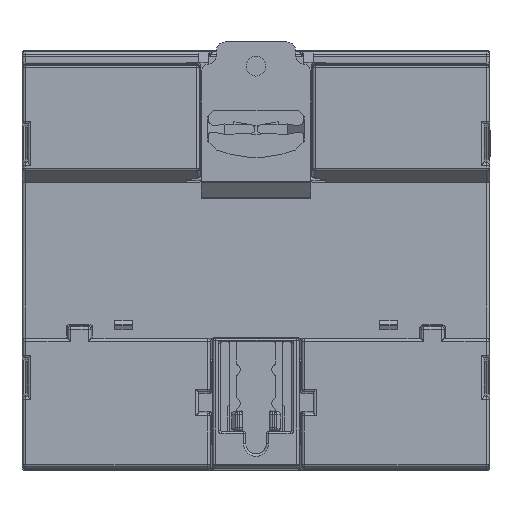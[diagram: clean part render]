
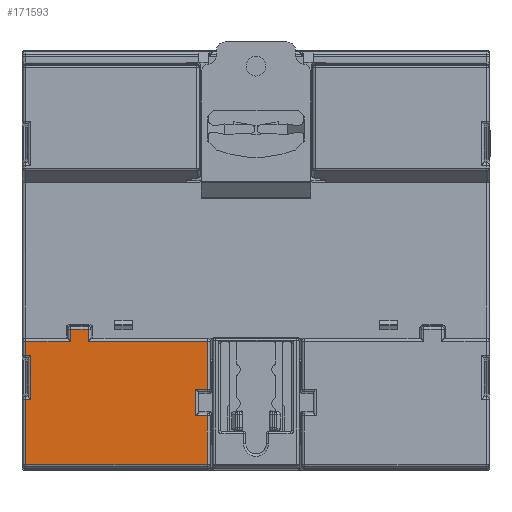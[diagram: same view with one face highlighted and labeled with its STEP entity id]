
A CAD part, front view. The second image highlights one B-rep face of the part: STEP entity #171593.
In plain terms, the highlighted planar face has unit normal (0, -1, 0).
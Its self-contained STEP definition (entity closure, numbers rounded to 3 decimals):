
#5770 = LINE ( 'NONE', #36385, #108022 ) ;
#5859 = ORIENTED_EDGE ( 'NONE', *, *, #13735, .T. ) ;
#7556 = CARTESIAN_POINT ( 'NONE',  ( -69.754, -0.824, -21.502 ) ) ;
#10596 = CARTESIAN_POINT ( 'NONE',  ( -68.591, -0.824, -21.502 ) ) ;
#11526 = VERTEX_POINT ( 'NONE', #25212 ) ;
#13622 = ORIENTED_EDGE ( 'NONE', *, *, #94692, .T. ) ;
#13735 = EDGE_CURVE ( 'NONE', #127649, #94241, #149252, .T. ) ;
#18384 = CARTESIAN_POINT ( 'NONE',  ( -70.553, -0.824, -31.498 ) ) ;
#20463 = LINE ( 'NONE', #55338, #51771 ) ;
#22879 = LINE ( 'NONE', #73125, #85503 ) ;
#23715 = ORIENTED_EDGE ( 'NONE', *, *, #114754, .T. ) ;
#25212 = CARTESIAN_POINT ( 'NONE',  ( -31.153, -0.824, -29.213 ) ) ;
#29624 = AXIS2_PLACEMENT_3D ( 'NONE', #119900, #40122, #133372 ) ;
#29716 = VERTEX_POINT ( 'NONE', #132977 ) ;
#30785 = ORIENTED_EDGE ( 'NONE', *, *, #74808, .T. ) ;
#36371 = ORIENTED_EDGE ( 'NONE', *, *, #112500, .T. ) ;
#36385 = CARTESIAN_POINT ( 'NONE',  ( -70.553, -0.824, -21.502 ) ) ;
#38308 = VERTEX_POINT ( 'NONE', #57653 ) ;
#40122 = DIRECTION ( 'NONE',  ( 0., -1., 0. ) ) ;
#40477 = DIRECTION ( 'NONE',  ( 1., 0., 0. ) ) ;
#44574 = VECTOR ( 'NONE', #167088, 1000. ) ;
#45937 = VERTEX_POINT ( 'NONE', #105230 ) ;
#48440 = VERTEX_POINT ( 'NONE', #50788 ) ;
#49252 = CARTESIAN_POINT ( 'NONE',  ( -31.153, -0.824, -29.763 ) ) ;
#49418 = LINE ( 'NONE', #142881, #80716 ) ;
#49846 = DIRECTION ( 'NONE',  ( 1., 0., 0. ) ) ;
#50788 = CARTESIAN_POINT ( 'NONE',  ( -28.54, -0.824, -18.277 ) ) ;
#50837 = CARTESIAN_POINT ( 'NONE',  ( -28.54, -0.824, -46.251 ) ) ;
#50904 = EDGE_CURVE ( 'NONE', #94241, #29716, #112556, .T. ) ;
#51276 = CARTESIAN_POINT ( 'NONE',  ( -55.54, -0.824, -18.277 ) ) ;
#51771 = VECTOR ( 'NONE', #82160, 1000. ) ;
#52306 = ORIENTED_EDGE ( 'NONE', *, *, #107076, .T. ) ;
#52961 = PLANE ( 'NONE',  #29624 ) ;
#54797 = LINE ( 'NONE', #57142, #86091 ) ;
#54866 = DIRECTION ( 'NONE',  ( 0., 0., 1. ) ) ;
#55338 = CARTESIAN_POINT ( 'NONE',  ( -70.553, -0.824, -29.213 ) ) ;
#56569 = VECTOR ( 'NONE', #142376, 1000. ) ;
#57142 = CARTESIAN_POINT ( 'NONE',  ( -69.754, -0.824, -17.6 ) ) ;
#57398 = LINE ( 'NONE', #121246, #128278 ) ;
#57653 = CARTESIAN_POINT ( 'NONE',  ( -69.754, -0.824, -31.498 ) ) ;
#57664 = CARTESIAN_POINT ( 'NONE',  ( -55.54, -0.824, -15.587 ) ) ;
#58761 = VERTEX_POINT ( 'NONE', #115189 ) ;
#59687 = ORIENTED_EDGE ( 'NONE', *, *, #87891, .T. ) ;
#59946 = EDGE_CURVE ( 'NONE', #121198, #73034, #96320, .T. ) ;
#60015 = CARTESIAN_POINT ( 'NONE',  ( -31.153, -0.824, -35.187 ) ) ;
#64448 = VERTEX_POINT ( 'NONE', #51276 ) ;
#70214 = CARTESIAN_POINT ( 'NONE',  ( -68.591, -0.824, -31.498 ) ) ;
#73034 = VERTEX_POINT ( 'NONE', #70214 ) ;
#73125 = CARTESIAN_POINT ( 'NONE',  ( -59.565, -0.824, -17.6 ) ) ;
#73292 = EDGE_CURVE ( 'NONE', #48440, #64448, #169509, .T. ) ;
#74808 = EDGE_CURVE ( 'NONE', #64448, #108560, #57398, .T. ) ;
#75557 = ORIENTED_EDGE ( 'NONE', *, *, #147456, .T. ) ;
#75876 = VECTOR ( 'NONE', #139616, 1000. ) ;
#76080 = CARTESIAN_POINT ( 'NONE',  ( -70.553, -0.824, -35.187 ) ) ;
#76100 = CARTESIAN_POINT ( 'NONE',  ( -28.54, -0.824, -17.6 ) ) ;
#76808 = FACE_OUTER_BOUND ( 'NONE', #82706, .T. ) ;
#78452 = VECTOR ( 'NONE', #40477, 1000. ) ;
#80030 = LINE ( 'NONE', #100138, #75876 ) ;
#80111 = CARTESIAN_POINT ( 'NONE',  ( -27.99, -0.824, -46.251 ) ) ;
#80716 = VECTOR ( 'NONE', #103344, 1000. ) ;
#81067 = VECTOR ( 'NONE', #155759, 1000. ) ;
#82160 = DIRECTION ( 'NONE',  ( 1., 0., 0. ) ) ;
#82327 = LINE ( 'NONE', #140060, #148891 ) ;
#82706 = EDGE_LOOP ( 'NONE', ( #145355, #75557, #141109, #23715, #52306, #5859, #138429, #13622, #155581, #90447, #164933, #155567, #30785, #59687, #36371, #153719 ) ) ;
#82871 = LINE ( 'NONE', #18384, #113999 ) ;
#85082 = CARTESIAN_POINT ( 'NONE',  ( -69.754, -0.824, -46.251 ) ) ;
#85503 = VECTOR ( 'NONE', #86471, 1000. ) ;
#86091 = VECTOR ( 'NONE', #150281, 1000. ) ;
#86471 = DIRECTION ( 'NONE',  ( 0., 0., -1. ) ) ;
#87888 = CARTESIAN_POINT ( 'NONE',  ( -68.591, -0.824, -17.6 ) ) ;
#87891 = EDGE_CURVE ( 'NONE', #108560, #58761, #49418, .T. ) ;
#90447 = ORIENTED_EDGE ( 'NONE', *, *, #110127, .T. ) ;
#94241 = VERTEX_POINT ( 'NONE', #50837 ) ;
#94692 = EDGE_CURVE ( 'NONE', #29716, #105309, #151818, .T. ) ;
#96320 = LINE ( 'NONE', #87888, #131721 ) ;
#98273 = DIRECTION ( 'NONE',  ( -1., 0., 0. ) ) ;
#100138 = CARTESIAN_POINT ( 'NONE',  ( -70.553, -0.824, -18.277 ) ) ;
#102879 = DIRECTION ( 'NONE',  ( 0., 0., 1. ) ) ;
#103344 = DIRECTION ( 'NONE',  ( -1., 0., 0. ) ) ;
#104703 = VERTEX_POINT ( 'NONE', #135965 ) ;
#105230 = CARTESIAN_POINT ( 'NONE',  ( -69.754, -0.824, -18.277 ) ) ;
#105309 = VERTEX_POINT ( 'NONE', #60015 ) ;
#106152 = CARTESIAN_POINT ( 'NONE',  ( -28.54, -0.824, -29.213 ) ) ;
#107076 = EDGE_CURVE ( 'NONE', #38308, #127649, #54797, .T. ) ;
#108022 = VECTOR ( 'NONE', #49846, 1000. ) ;
#108560 = VERTEX_POINT ( 'NONE', #57664 ) ;
#110127 = EDGE_CURVE ( 'NONE', #11526, #121293, #20463, .T. ) ;
#112500 = EDGE_CURVE ( 'NONE', #58761, #104703, #22879, .T. ) ;
#112556 = LINE ( 'NONE', #121837, #143750 ) ;
#113999 = VECTOR ( 'NONE', #98273, 1000. ) ;
#114754 = EDGE_CURVE ( 'NONE', #73034, #38308, #82871, .T. ) ;
#115189 = CARTESIAN_POINT ( 'NONE',  ( -59.565, -0.824, -15.587 ) ) ;
#115820 = CARTESIAN_POINT ( 'NONE',  ( -70.553, -0.824, -18.277 ) ) ;
#119900 = CARTESIAN_POINT ( 'NONE',  ( -70.553, -0.824, -17.6 ) ) ;
#121198 = VERTEX_POINT ( 'NONE', #10596 ) ;
#121246 = CARTESIAN_POINT ( 'NONE',  ( -55.54, -0.824, -17.6 ) ) ;
#121293 = VERTEX_POINT ( 'NONE', #106152 ) ;
#121837 = CARTESIAN_POINT ( 'NONE',  ( -28.54, -0.824, -17.6 ) ) ;
#123919 = EDGE_CURVE ( 'NONE', #45937, #167384, #82327, .T. ) ;
#127412 = LINE ( 'NONE', #49252, #56569 ) ;
#127649 = VERTEX_POINT ( 'NONE', #85082 ) ;
#128127 = EDGE_CURVE ( 'NONE', #105309, #11526, #127412, .T. ) ;
#128278 = VECTOR ( 'NONE', #54866, 1000. ) ;
#130951 = VECTOR ( 'NONE', #102879, 1000. ) ;
#131721 = VECTOR ( 'NONE', #167629, 1000. ) ;
#132695 = EDGE_CURVE ( 'NONE', #104703, #45937, #80030, .T. ) ;
#132977 = CARTESIAN_POINT ( 'NONE',  ( -28.54, -0.824, -35.187 ) ) ;
#133372 = DIRECTION ( 'NONE',  ( 0., 0., -1. ) ) ;
#135264 = DIRECTION ( 'NONE',  ( 0., 0., 1. ) ) ;
#135965 = CARTESIAN_POINT ( 'NONE',  ( -59.565, -0.824, -18.277 ) ) ;
#138429 = ORIENTED_EDGE ( 'NONE', *, *, #50904, .T. ) ;
#139616 = DIRECTION ( 'NONE',  ( -1., 0., 0. ) ) ;
#140060 = CARTESIAN_POINT ( 'NONE',  ( -69.754, -0.824, -17.6 ) ) ;
#141109 = ORIENTED_EDGE ( 'NONE', *, *, #59946, .T. ) ;
#142376 = DIRECTION ( 'NONE',  ( 0., 0., 1. ) ) ;
#142881 = CARTESIAN_POINT ( 'NONE',  ( -70.553, -0.824, -15.587 ) ) ;
#143750 = VECTOR ( 'NONE', #135264, 1000. ) ;
#145355 = ORIENTED_EDGE ( 'NONE', *, *, #123919, .T. ) ;
#147456 = EDGE_CURVE ( 'NONE', #167384, #121198, #5770, .T. ) ;
#148891 = VECTOR ( 'NONE', #153473, 1000. ) ;
#149252 = LINE ( 'NONE', #80111, #78452 ) ;
#150281 = DIRECTION ( 'NONE',  ( 0., 0., -1. ) ) ;
#151818 = LINE ( 'NONE', #76080, #81067 ) ;
#153473 = DIRECTION ( 'NONE',  ( 0., 0., -1. ) ) ;
#153719 = ORIENTED_EDGE ( 'NONE', *, *, #132695, .T. ) ;
#155567 = ORIENTED_EDGE ( 'NONE', *, *, #73292, .T. ) ;
#155581 = ORIENTED_EDGE ( 'NONE', *, *, #128127, .T. ) ;
#155759 = DIRECTION ( 'NONE',  ( -1., 0., 0. ) ) ;
#161875 = EDGE_CURVE ( 'NONE', #121293, #48440, #170460, .T. ) ;
#164933 = ORIENTED_EDGE ( 'NONE', *, *, #161875, .T. ) ;
#167088 = DIRECTION ( 'NONE',  ( -1., 0., 0. ) ) ;
#167384 = VERTEX_POINT ( 'NONE', #7556 ) ;
#167629 = DIRECTION ( 'NONE',  ( 0., 0., -1. ) ) ;
#169509 = LINE ( 'NONE', #115820, #44574 ) ;
#170460 = LINE ( 'NONE', #76100, #130951 ) ;
#171593 = ADVANCED_FACE ( 'NONE', ( #76808 ), #52961, .T. ) ;
